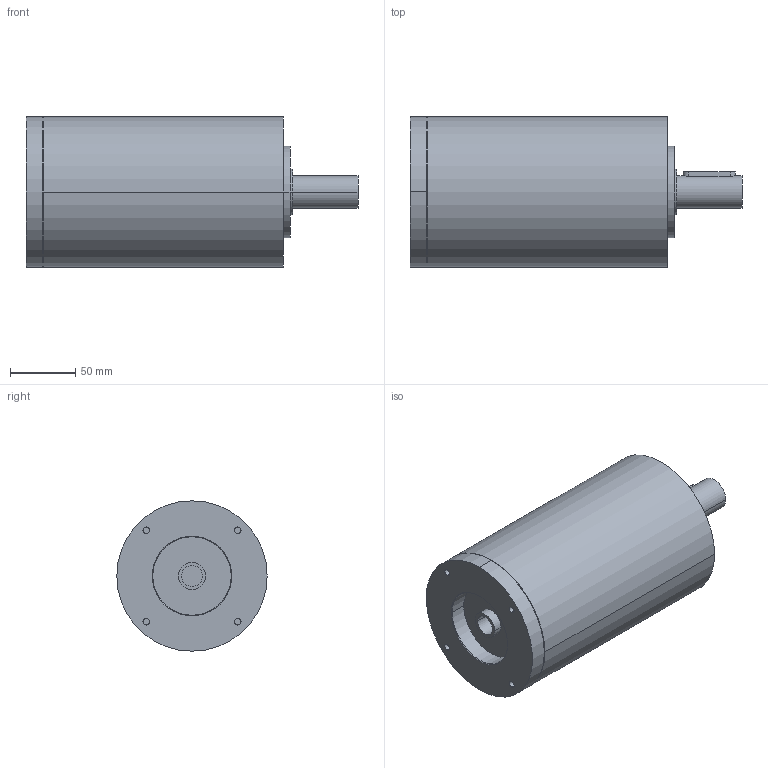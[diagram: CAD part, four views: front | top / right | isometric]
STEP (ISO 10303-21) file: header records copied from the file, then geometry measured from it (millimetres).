
FILE_DESCRIPTION(('CoCreate Modeling STEP Export'),'2;1');
FILE_NAME('GPR125_ig-48-64-80-100-140-196-245-343_25_B14_16_P20.stp','2014-08-26T14:21:36',(''),(''),'CoCreate Modeling STEP processor for AP214 (Solid Model)','CoCreate Modeling 16.00C 25-Feb-2009 (C) Parametric Technology GmbH','');
FILE_SCHEMA(('AUTOMOTIVE_DESIGN { 1 0 10303 214 1 1 1 1 }'));
Length unit declared in the file: millimetre
Products named in the file (2): GPR125_ig-48-64-80-100-140-196-245-343_25_B14_16_P20
Assembly tree (1 placements, depth 2):
  GPR125_ig-48-64-80-100-140-196-245-343_25_B14_16_P20
    GPR125_ig-48-64-80-100-140-196-245-343_25_B14_16_P20
Bounding box: 254 x 115 x 115 mm (x, y, z)
Volume: 2044903.3 mm3; surface area: 105837 mm2
Topology: 1 solids, 1 shells, 62 faces, 159 edges, 113 vertices
Faces by surface type: cylinder 36, plane 20, cone 6
Entity records: 1615 total; most frequent: ORIENTED_EDGE 314, CARTESIAN_POINT 308, DIRECTION 206, EDGE_CURVE 157, VERTEX_POINT 113, AXIS2_PLACEMENT_3D 79, EDGE_LOOP 78, FACE_OUTER_BOUND 62
